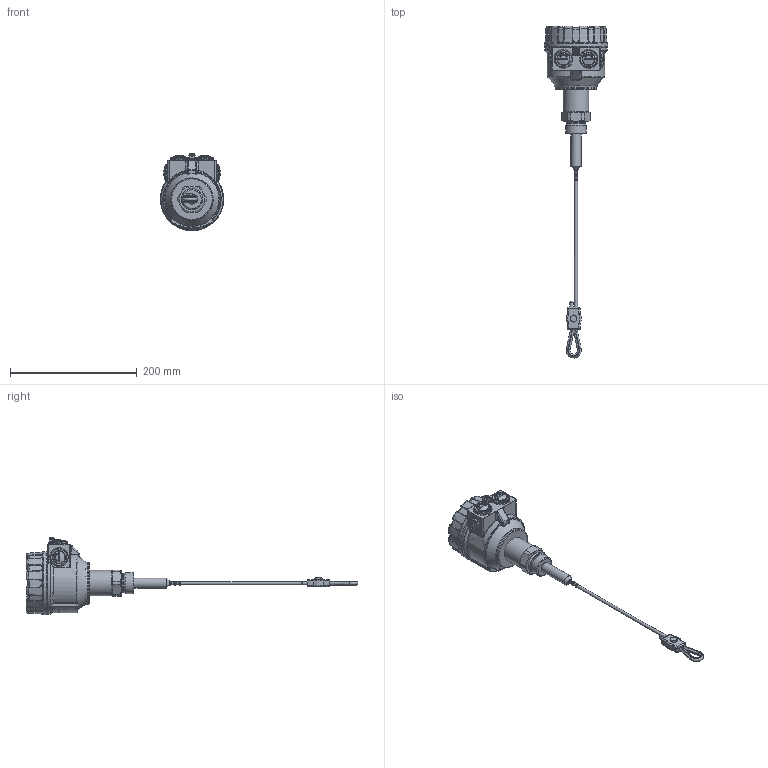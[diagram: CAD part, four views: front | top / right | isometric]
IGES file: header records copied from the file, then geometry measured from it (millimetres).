
Global section: file name: CT_Al_1 col_hossz kötél,2; native system: 2HAutodesk Inventor 2015; preprocessor: unknown; author: aantal; date: 20150626.083029; units: millimetre
Bounding box: 100 x 524.5 x 122.53 mm (x, y, z)
Volume: 738462.9 mm3; surface area: 107796.4 mm2
Topology: 13 solids, 13 shells, 1247 faces, 3146 edges, 1967 vertices
Faces by surface type: bspline 1247
